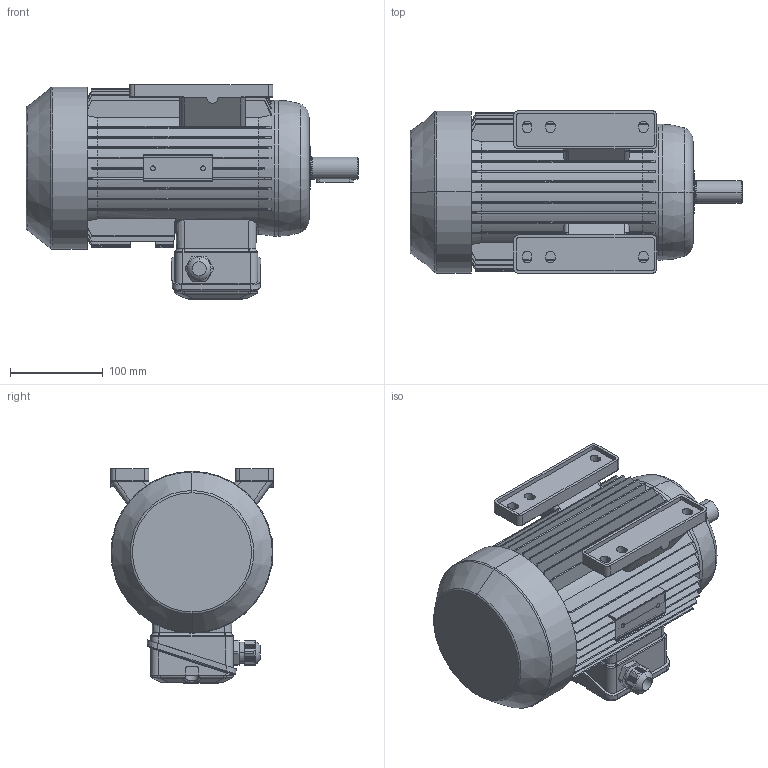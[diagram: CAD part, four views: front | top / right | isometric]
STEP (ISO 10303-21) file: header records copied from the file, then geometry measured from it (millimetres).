
FILE_DESCRIPTION (( 'STEP AP214' ), '1' );
FILE_NAME ('MAP90L6A IM1041.STEP', '2021-03-04T13:06:49', ( '' ), ( '' ), 'SwSTEP 2.0', 'SolidWorks 2018', '' );
FILE_SCHEMA (( 'AUTOMOTIVE_DESIGN' ));
Length unit declared in the file: millimetre
Products named in the file (1): MAP90L6A IM1041
Bounding box: 357 x 174.5 x 231 mm (x, y, z)
Volume: 6170048.2 mm3; surface area: 453152.1 mm2
Topology: 2 solids, 8 shells, 1274 faces, 3377 edges, 2145 vertices
Faces by surface type: plane 559, cylinder 306, bspline 188, cone 136, torus 81, sphere 4
Entity records: 52488 total; most frequent: CARTESIAN_POINT 23007, ORIENTED_EDGE 6742, DIRECTION 5393, EDGE_CURVE 3371, VERTEX_POINT 2145, AXIS2_PLACEMENT_3D 1901, LINE 1591, VECTOR 1591
